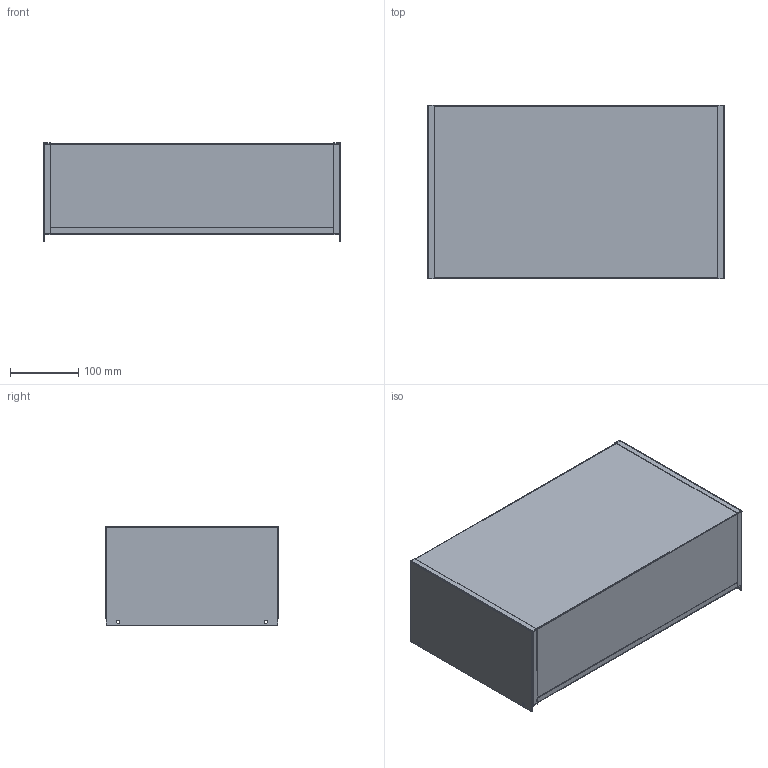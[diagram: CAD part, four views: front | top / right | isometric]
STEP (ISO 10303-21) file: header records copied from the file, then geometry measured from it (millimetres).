
FILE_DESCRIPTION((''),'2;1');
FILE_NAME('E:\Eng\Customer Service\Drawings\1451\STEP Files\1451-30.stp','2008-08-20T13:06:26',('tmalott'),(''),'Autodesk Inventor 2009','Autodesk Inventor 2009','');
FILE_SCHEMA(('AUTOMOTIVE_DESIGN { 1 0 10303 214 1 1 1 1 }'));
Length unit declared in the file: millimetre
Products named in the file (4): 1451-30; 1; 2; 3
Assembly tree (5 placements, depth 2):
  1451-30
    1
    2  x2
    3  x2
Bounding box: 434.01 x 254 x 143.79 mm (x, y, z)
Volume: 240131.4 mm3; surface area: 640685 mm2
Topology: 5 solids, 5 shells, 110 faces, 280 edges, 180 vertices
Faces by surface type: plane 66, cylinder 36, bspline 8
Full cylindrical faces by diameter (mm): 4.763 x4
Entity records: 2273 total; most frequent: CARTESIAN_POINT 657, DIRECTION 312, ORIENTED_EDGE 308, EDGE_CURVE 154, VECTOR 114, LINE 114, VERTEX_POINT 100, AXIS2_PLACEMENT_3D 99
